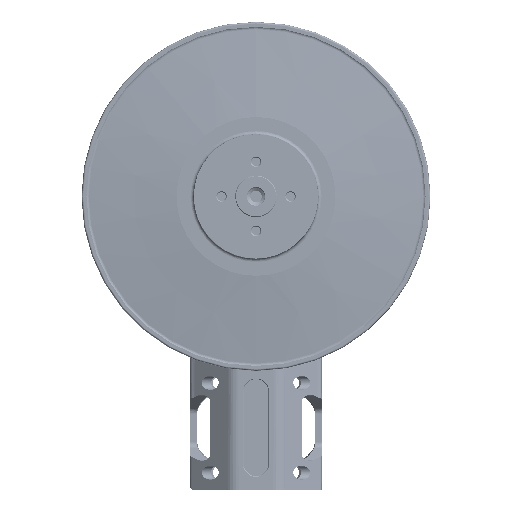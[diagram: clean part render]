
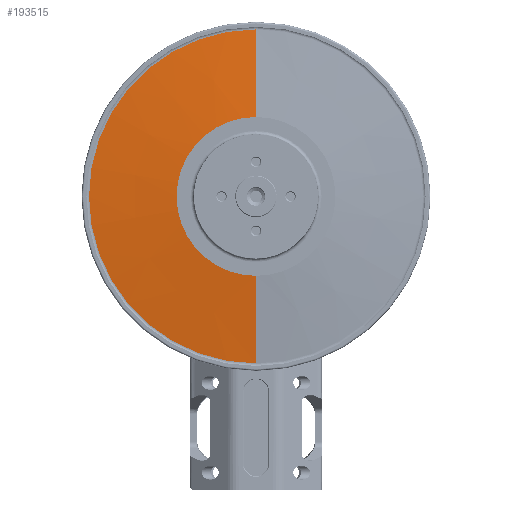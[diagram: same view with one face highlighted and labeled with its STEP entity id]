
A CAD part, front view. The second image highlights one B-rep face of the part: STEP entity #193515.
In plain terms, the highlighted conical face has half-angle 84.417 degrees and reference radius 49.087 mm.
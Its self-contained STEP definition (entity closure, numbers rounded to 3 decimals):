
#2440 = DIRECTION ( 'NONE',  ( 0., -1., 0. ) ) ;
#10336 = DIRECTION ( 'NONE',  ( 0., -0.097, -0.995 ) ) ;
#14659 = DIRECTION ( 'NONE',  ( 0., -1., 0. ) ) ;
#21925 = DIRECTION ( 'NONE',  ( 0., -0.097, 0.995 ) ) ;
#32102 = VERTEX_POINT ( 'NONE', #212004 ) ;
#71074 = DIRECTION ( 'NONE',  ( 0., 0., -1. ) ) ;
#78650 = LINE ( 'NONE', #261792, #253845 ) ;
#81688 = VERTEX_POINT ( 'NONE', #168111 ) ;
#86689 = CARTESIAN_POINT ( 'NONE',  ( 0., 13.123, -48.349 ) ) ;
#117886 = EDGE_CURVE ( 'NONE', #32102, #313915, #297589, .T. ) ;
#120232 = AXIS2_PLACEMENT_3D ( 'NONE', #133610, #14659, #71074 ) ;
#123200 = VERTEX_POINT ( 'NONE', #86689 ) ;
#125299 = DIRECTION ( 'NONE',  ( 0., 0., -1. ) ) ;
#133610 = CARTESIAN_POINT ( 'NONE',  ( 0., 13.05, 0. ) ) ;
#149067 = CARTESIAN_POINT ( 'NONE',  ( 0., 13.05, 49.087 ) ) ;
#165142 = CONICAL_SURFACE ( 'NONE', #120232, 49.087, 1.473 ) ;
#168111 = CARTESIAN_POINT ( 'NONE',  ( 0., 15.6, -23. ) ) ;
#173466 = EDGE_CURVE ( 'NONE', #81688, #123200, #78650, .T. ) ;
#185902 = ORIENTED_EDGE ( 'NONE', *, *, #351127, .T. ) ;
#188887 = CARTESIAN_POINT ( 'NONE',  ( 0., 13.123, 0. ) ) ;
#190890 = DIRECTION ( 'NONE',  ( 0., 1., 0. ) ) ;
#192917 = DIRECTION ( 'NONE',  ( 0., 0., -1. ) ) ;
#193515 = ADVANCED_FACE ( 'NONE', ( #226011 ), #165142, .T. ) ;
#211527 = EDGE_CURVE ( 'NONE', #81688, #32102, #313179, .T. ) ;
#212004 = CARTESIAN_POINT ( 'NONE',  ( 0., 15.6, 23. ) ) ;
#226011 = FACE_OUTER_BOUND ( 'NONE', #266429, .T. ) ;
#226385 = ORIENTED_EDGE ( 'NONE', *, *, #211527, .T. ) ;
#245966 = CARTESIAN_POINT ( 'NONE',  ( 0., 15.6, 0. ) ) ;
#253845 = VECTOR ( 'NONE', #10336, 1000. ) ;
#261792 = CARTESIAN_POINT ( 'NONE',  ( 0., 13.05, -49.087 ) ) ;
#266429 = EDGE_LOOP ( 'NONE', ( #226385, #364890, #185902, #353285 ) ) ;
#275119 = CARTESIAN_POINT ( 'NONE',  ( 0., 13.123, 48.349 ) ) ;
#287393 = AXIS2_PLACEMENT_3D ( 'NONE', #245966, #2440, #125299 ) ;
#291344 = CIRCLE ( 'NONE', #316861, 48.349 ) ;
#297589 = LINE ( 'NONE', #149067, #343869 ) ;
#313179 = CIRCLE ( 'NONE', #287393, 23. ) ;
#313915 = VERTEX_POINT ( 'NONE', #275119 ) ;
#316861 = AXIS2_PLACEMENT_3D ( 'NONE', #188887, #190890, #192917 ) ;
#343869 = VECTOR ( 'NONE', #21925, 1000. ) ;
#351127 = EDGE_CURVE ( 'NONE', #313915, #123200, #291344, .T. ) ;
#353285 = ORIENTED_EDGE ( 'NONE', *, *, #173466, .F. ) ;
#364890 = ORIENTED_EDGE ( 'NONE', *, *, #117886, .T. ) ;
